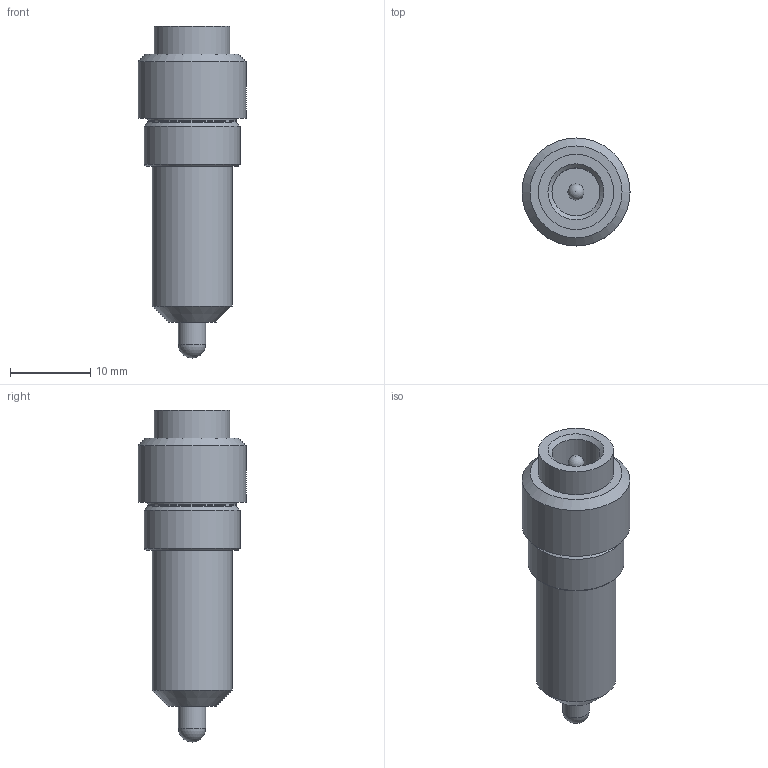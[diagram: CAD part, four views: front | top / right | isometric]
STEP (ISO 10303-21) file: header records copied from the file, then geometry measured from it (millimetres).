
FILE_DESCRIPTION(/* description */ (''),/* implementation_level */ '2;1');
FILE_NAME(/* name */ 'Y:\IvDoronin\- Фотоприемники -\- Модели -\4. Аксесуары для фотоприемников\Adapter A23\Адаптер питания_Shrinkwrap.stp',/* time_stamp */ '2019-09-13T18:37:08+03:00',/* author */ ('svlad'),/* organization */ (''),/* preprocessor_version */ 'ST-DEVELOPER v17',/* originating_system */ 'Autodesk Inventor 2019',/* authorisation */ '');
FILE_SCHEMA (('AUTOMOTIVE_DESIGN { 1 0 10303 214 3 1 1 }'));
Length unit declared in the file: millimetre
Products named in the file (1): Адаптер питания_
Shrinkwrap
Bounding box: 13.5 x 13.5 x 41.5 mm (x, y, z)
Volume: 3311.3 mm3; surface area: 1793.8 mm2
Topology: 1 solids, 1 shells, 25 faces, 71 edges, 52 vertices
Faces by surface type: cylinder 9, cone 6, plane 6, sphere 2, torus 2
Full cylindrical faces by diameter (mm): 2 x1, 3.4 x1, 3.5 x1, 6 x1, 9.4 x1, 10 x1, 11 x1, 12 x1, 13.5 x1
Entity records: 946 total; most frequent: DIRECTION 175, CARTESIAN_POINT 147, ORIENTED_EDGE 138, AXIS2_PLACEMENT_3D 80, EDGE_CURVE 69, CIRCLE 54, VERTEX_POINT 52, EDGE_LOOP 31
